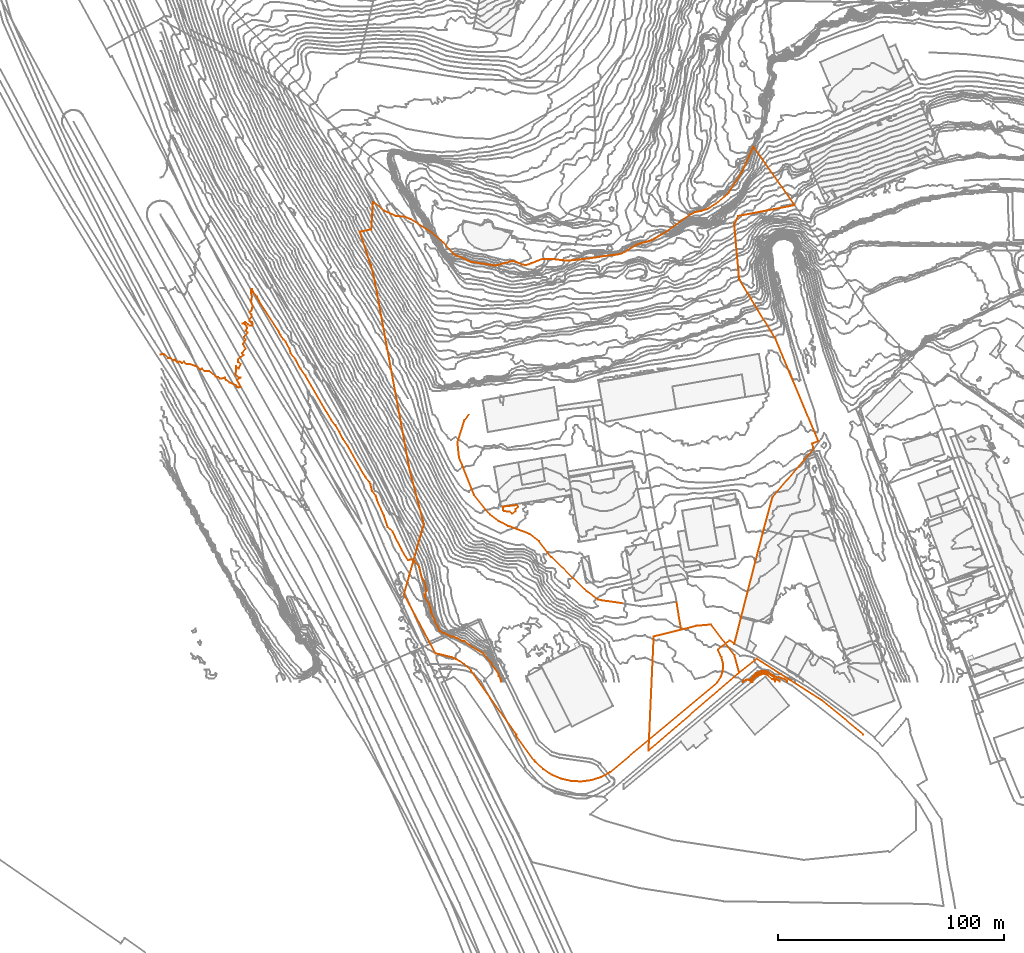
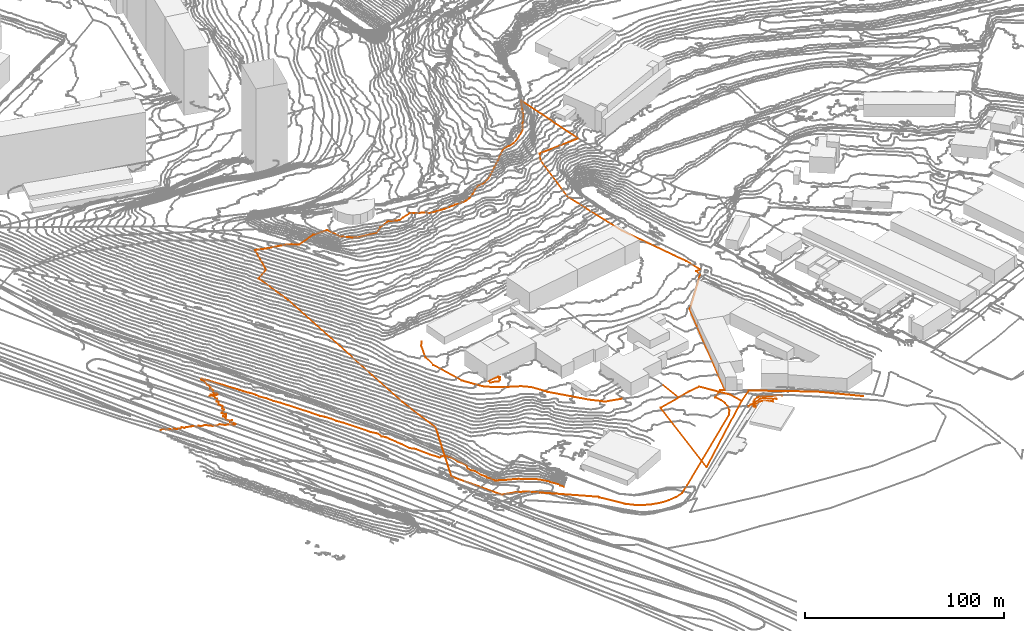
# Not in any storey, part 107 of 419: 12 proxies.
"""IFC2X3 model written with IfcOpenShell, lengths in metres."""

from ifc_helpers import new_model, entity, si_unit, frame, origin_with_axes, place, context, subcontext, project, element, save


model = new_model("IFC2X3")

# Units and contexts
model_context = context("Model", 3, precision=1e-05, world=origin_with_axes())
body_context = subcontext(model_context, "Body", "Model", "MODEL_VIEW")
ifc_project = project(units=[si_unit("AREAUNIT", "SQUARE_METRE"), si_unit("LENGTHUNIT", "METRE")], contexts=[model_context])

# Proxies
proxy_1_placement = place(None, frame((215.4920204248, -31.9023090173, 12.0), z_axis=(0.0, 0.0, 1.0), x_axis=(1.0, 0.0, 0.0)))
element("IfcBuildingElementProxy", 1, at=proxy_1_placement, Name="Route 16", ObjectType="NOTDEFINED", context=body_context, shape_type="GeometricCurveSet", body=[
    entity("IfcGeometricCurveSet", [entity("IfcPolyline", [entity("IfcCartesianPoint", [40.1, 34.3999999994, 5.6]), entity("IfcCartesianPoint", [0.0, 0.0, 0.0])])]),
])
proxy_2_placement = place(None, frame((227.8920204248, 33.8976909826, 18.1), z_axis=(0.0, 0.0, 1.0), x_axis=(1.0, 0.0, 0.0)))
element("IfcBuildingElementProxy", 2, at=proxy_2_placement, Name="Route 100", ObjectType="NOTDEFINED", context=body_context, shape_type="GeometricCurveSet", body=[
    entity("IfcGeometricCurveSet", [entity("IfcPolyline", [entity("IfcCartesianPoint", [0.0, 0.0, 0.0]), entity("IfcCartesianPoint", [2.0, -12.4000000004, -1.0])])]),
])
proxy_3_placement = place(None, frame((215.4920204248, -31.9023090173, 12.0), z_axis=(0.0, 0.0, 1.0), x_axis=(1.0, 0.0, 0.0)))
element("IfcBuildingElementProxy", 3, at=proxy_3_placement, Name="Route 153", ObjectType="NOTDEFINED", context=body_context, shape_type="GeometricCurveSet", body=[
    entity("IfcGeometricCurveSet", [entity("IfcPolyline", [entity("IfcCartesianPoint", [0.0, 0.0, 0.0]), entity("IfcCartesianPoint", [2.2999999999, 50.3999999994, 5.0]), entity("IfcCartesianPoint", [14.4, 53.3999999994, 5.1])])]),
])
proxy_4_placement = place(None, frame((130.9920204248, 104.3976909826, 26.1), z_axis=(0.0, 0.0, 1.0), x_axis=(1.0, 0.0, 0.0)))
element("IfcBuildingElementProxy", 4, at=proxy_4_placement, Name="Route 252", ObjectType="NOTDEFINED", context=body_context, shape_type="GeometricCurveSet", body=[
    entity("IfcGeometricCurveSet", [entity("IfcPolyline", [entity("IfcCartesianPoint", [5.1, 12.5, 0.9]), entity("IfcCartesianPoint", [3.0, 9.5, 0.6]), entity("IfcCartesianPoint", [0.0, 0.0, 0.0]), entity("IfcCartesianPoint", [0.7, -6.7000000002, -0.7]), entity("IfcCartesianPoint", [7.4, -23.2999999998, -2.5]), entity("IfcCartesianPoint", [14.5, -32.0999999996, -3.3]), entity("IfcCartesianPoint", [18.2, -34.9000000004, -3.3]), entity("IfcCartesianPoint", [22.4, -37.0, -3.7]), entity("IfcCartesianPoint", [32.0, -40.5999999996, -4.2]), entity("IfcCartesianPoint", [36.0, -43.7999999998, -4.2]), entity("IfcCartesianPoint", [41.6, -50.9000000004, -4.8]), entity("IfcCartesianPoint", [57.1, -65.9000000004, -6.0]), entity("IfcCartesianPoint", [62.2, -69.5999999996, -6.4]), entity("IfcCartesianPoint", [63.5, -69.9000000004, -7.0]), entity("IfcCartesianPoint", [72.7, -71.2000000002, -7.6])])]),
])
proxy_5_placement = place(None, frame((229.8920204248, 21.4976909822, 17.1), z_axis=(0.0, 0.0, 1.0), x_axis=(1.0, 0.0, 0.0)))
element("IfcBuildingElementProxy", 5, at=proxy_5_placement, Name="Route 253", ObjectType="NOTDEFINED", context=body_context, shape_type="GeometricCurveSet", body=[
    entity("IfcGeometricCurveSet", [entity("IfcPolyline", [entity("IfcCartesianPoint", [0.0, 0.0, 0.0]), entity("IfcCartesianPoint", [6.8999999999, 1.7000000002, 0.3]), entity("IfcCartesianPoint", [13.2999999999, 2.3000000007, 0.7]), entity("IfcCartesianPoint", [23.6, -11.2999999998, 0.4]), entity("IfcCartesianPoint", [25.7, -19.0, 0.5])])]),
])
proxy_6_placement = place(None, frame((255.5920204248, 2.4976909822, 17.6), z_axis=(0.0, 0.0, 1.0), x_axis=(1.0, 0.0, 0.0)))
element("IfcBuildingElementProxy", 6, at=proxy_6_placement, Name="Route 256", ObjectType="NOTDEFINED", context=body_context, shape_type="GeometricCurveSet", body=[
    entity("IfcGeometricCurveSet", [entity("IfcPolyline", [entity("IfcCartesianPoint", [0.0, 0.0, 0.0]), entity("IfcCartesianPoint", [7.7, 6.1000000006, 0.0]), entity("IfcCartesianPoint", [36.4, -12.1999999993, 0.4]), entity("IfcCartesianPoint", [54.9, -27.2999999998, 0.3])])]),
])
proxy_7_placement = place(None, frame((87.7920204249, 197.4976909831, 33.1496004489), z_axis=(0.0, 0.0, 1.0), x_axis=(1.0, 0.0, 0.0)))
element("IfcBuildingElementProxy", 7, at=proxy_7_placement, Name="Cadastre 335", ObjectType="NOTDEFINED", context=body_context, shape_type="GeometricCurveSet", body=[
    entity("IfcGeometricCurveSet", [entity("IfcPolyline", [entity("IfcCartesianPoint", [33.5499999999, -186.4900000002, -31.195350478]), entity("IfcCartesianPoint", [19.5299999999, -160.3000000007, -31.1716604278]), entity("IfcCartesianPoint", [28.36, -129.1900000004, -22.8964121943]), entity("IfcCartesianPoint", [22.24, -106.1900000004, -19.2302004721]), entity("IfcCartesianPoint", [18.0, -83.25, -15.0913002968]), entity("IfcCartesianPoint", [6.1599999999, -19.2800000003, -3.5895365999]), entity("IfcCartesianPoint", [5.62, -17.4200000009, -3.2727525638]), entity("IfcCartesianPoint", [4.9299999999, -14.9700000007, -2.8376243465]), entity("IfcCartesianPoint", [0.0, 0.0, 0.0]), entity("IfcCartesianPoint", [5.0699999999, 1.0499999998, 3.0598048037]), entity("IfcCartesianPoint", [5.83, 13.2199999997, 7.5485268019]), entity("IfcCartesianPoint", [10.8099999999, 9.2799999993, 9.2240953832]), entity("IfcCartesianPoint", [15.86, 7.0499999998, 10.2466809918]), entity("IfcCartesianPoint", [19.7799999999, 6.6199999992, 9.8278168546]), entity("IfcCartesianPoint", [22.5, 5.5899999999, 9.7898387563]), entity("IfcCartesianPoint", [25.6799999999, 3.5899999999, 9.8558316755]), entity("IfcCartesianPoint", [31.6499999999, -0.25, 15.9574254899]), entity("IfcCartesianPoint", [37.1, -4.8700000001, 19.7376892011]), entity("IfcCartesianPoint", [41.59, -9.9400000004, 17.3336984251]), entity("IfcCartesianPoint", [49.2799999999, -13.3100000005, 15.8859805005]), entity("IfcCartesianPoint", [59.61, -14.9200000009, 16.2252165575]), entity("IfcCartesianPoint", [61.0299999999, -14.7800000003, 16.775847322]), entity("IfcCartesianPoint", [62.4299999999, -14.2700000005, 18.1761027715]), entity("IfcCartesianPoint", [67.6699999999, -12.8900000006, 19.4125919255]), entity("IfcCartesianPoint", [71.6499999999, -14.4300000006, 19.3025652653]), entity("IfcCartesianPoint", [73.36, -14.8100000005, 19.2423358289]), entity("IfcCartesianPoint", [75.9399999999, -13.9000000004, 19.3809199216]), entity("IfcCartesianPoint", [80.8199999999, -11.9700000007, 19.1273111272]), entity("IfcCartesianPoint", [85.1799999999, -12.04, 17.7956275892]), entity("IfcCartesianPoint", [89.22, -12.5500000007, 16.8559796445]), entity("IfcCartesianPoint", [92.22, -12.79, 15.7641380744]), entity("IfcCartesianPoint", [101.4099999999, -11.7800000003, 14.5136399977]), entity("IfcCartesianPoint", [107.9299999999, -10.79, 14.0893266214]), entity("IfcCartesianPoint", [112.74, -10.2000000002, 13.5418586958]), entity("IfcCartesianPoint", [114.9099999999, -9.9200000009, 13.5956011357]), entity("IfcCartesianPoint", [117.6, -8.7100000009, 13.6106984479]), entity("IfcCartesianPoint", [120.22, -7.0100000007, 14.1468648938]), entity("IfcCartesianPoint", [122.49, -5.7000000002, 15.2265198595]), entity("IfcCartesianPoint", [125.0, -4.8400000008, 16.4420801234]), entity("IfcCartesianPoint", [128.6499999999, -3.9200000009, 15.9554999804]), entity("IfcCartesianPoint", [130.9299999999, -2.7000000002, 16.1604194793]), entity("IfcCartesianPoint", [134.5499999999, -0.5200000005, 16.9589997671]), entity("IfcCartesianPoint", [146.1499999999, 7.5699999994, 23.1404105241]), entity("IfcCartesianPoint", [147.98, 8.6099999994, 23.2763274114]), entity("IfcCartesianPoint", [151.0399999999, 9.25, 23.1344592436]), entity("IfcCartesianPoint", [153.83, 10.1199999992, 23.0939033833]), entity("IfcCartesianPoint", [157.6, 12.5, 23.1687992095]), entity("IfcCartesianPoint", [163.0399999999, 17.0899999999, 23.4222915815]), entity("IfcCartesianPoint", [168.99, 26.46, 24.8803915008]), entity("IfcCartesianPoint", [174.11, 37.5999999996, 25.4276097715]), entity("IfcCartesianPoint", [192.4199999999, 11.7999999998, 11.5059395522]), entity("IfcCartesianPoint", [167.36, 6.9799999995, 14.0376462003]), entity("IfcCartesianPoint", [165.62, 3.2999999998, 12.7647195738]), entity("IfcCartesianPoint", [167.7999999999, -20.9800000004, 3.795598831]), entity("IfcCartesianPoint", [183.85, -47.2800000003, -6.3424410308]), entity("IfcCartesianPoint", [196.3199999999, -77.1300000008, -7.5425638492]), entity("IfcCartesianPoint", [199.4099999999, -84.4300000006, -7.7187877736]), entity("IfcCartesianPoint", [202.87, -92.5800000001, -9.2579601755]), entity("IfcCartesianPoint", [200.08, -93.6400000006, -8.7294085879]), entity("IfcCartesianPoint", [200.71, -96.1100000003, -9.6134639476]), entity("IfcCartesianPoint", [196.83, -100.4800000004, -10.9808488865]), entity("IfcCartesianPoint", [182.5299999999, -117.4300000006, -11.5107734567]), entity("IfcCartesianPoint", [178.61, -131.79, -11.9214794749]), entity("IfcCartesianPoint", [168.7, -170.1800000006, -15.1339199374]), entity("IfcCartesianPoint", [165.61, -182.2700000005, -15.8918462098]), entity("IfcCartesianPoint", [163.5499999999, -180.75, -15.9452250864]), entity("IfcCartesianPoint", [158.38, -184.79, -16.2168201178]), entity("IfcCartesianPoint", [159.97, -188.2300000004, -16.5089844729]), entity("IfcCartesianPoint", [160.6599999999, -191.1000000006, -16.8653999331]), entity("IfcCartesianPoint", [160.5699999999, -194.0600000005, -17.1485085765]), entity("IfcCartesianPoint", [159.6799999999, -196.9000000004, -17.4884806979]), entity("IfcCartesianPoint", [158.0699999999, -199.3800000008, -17.7007002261]), entity("IfcCartesianPoint", [157.97, -199.5, -17.7077001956]), entity("IfcCartesianPoint", [110.6399999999, -239.1000000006, -20.6172003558]), entity("IfcCartesianPoint", [106.63, -241.2200000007, -22.686200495]), entity("IfcCartesianPoint", [102.33, -242.5700000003, -22.6896004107]), entity("IfcCartesianPoint", [97.86, -243.1600000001, -22.7184001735]), entity("IfcCartesianPoint", [93.35, -242.9400000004, -22.798600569]), entity("IfcCartesianPoint", [88.96, -241.9400000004, -22.8780001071]), entity("IfcCartesianPoint", [84.8099999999, -240.1700000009, -22.9594008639]), entity("IfcCartesianPoint", [81.0399999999, -237.7000000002, -23.0776002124]), entity("IfcCartesianPoint", [77.7599999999, -234.6100000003, -23.1772002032]), entity("IfcCartesianPoint", [77.25, -234.0100000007, -23.1466004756]), entity("IfcCartesianPoint", [69.09, -222.8700000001, -23.2283003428]), entity("IfcCartesianPoint", [69.2999999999, -222.4800000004, -23.234600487]), entity("IfcCartesianPoint", [49.24, -194.0600000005, -30.6254564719]), entity("IfcCartesianPoint", [46.1699999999, -191.25, -30.8959654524]), entity("IfcCartesianPoint", [42.61, -189.0600000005, -31.100148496]), entity("IfcCartesianPoint", [40.6399999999, -188.2000000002, -31.1704004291]), entity("IfcCartesianPoint", [33.5499999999, -186.4900000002, -31.195350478])])]),
])
proxy_8_placement = place(None, frame((151.0920204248, 74.3977159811, 22.0), z_axis=(0.0, 0.0, 1.0), x_axis=(1.0, 0.0, 0.0)))
element("IfcBuildingElementProxy", 8, at=proxy_8_placement, Name="Contour 22.0 m", ObjectType="NOTDEFINED", context=body_context, shape_type="GeometricCurveSet", body=[
    entity("IfcGeometricCurveSet", [entity("IfcPolyline", [entity("IfcCartesianPoint", [4.0, -1.6000269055, 0.0]), entity("IfcCartesianPoint", [5.6666666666, -0.5000249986, 0.0]), entity("IfcCartesianPoint", [5.6666666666, 0.4999750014, 0.0]), entity("IfcCartesianPoint", [6.8, 1.4999750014, 0.0]), entity("IfcCartesianPoint", [6.0, 2.1666416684, 0.0]), entity("IfcCartesianPoint", [0.0, 1.5344584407, 0.0]), entity("IfcCartesianPoint", [0.0, 0.0, 0.0]), entity("IfcCartesianPoint", [0.5000249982, -0.5000249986, 0.0]), entity("IfcCartesianPoint", [3.0, -0.7000288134, 0.0]), entity("IfcCartesianPoint", [4.0, -1.6000269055, 0.0])])]),
])
proxy_9_placement = place(None, frame((-0.4079795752, 143.2310243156, 4.0), z_axis=(0.0, 0.0, 1.0), x_axis=(1.0, 0.0, 0.0)))
element("IfcBuildingElementProxy", 9, at=proxy_9_placement, Name="Contour 4.0 m", ObjectType="NOTDEFINED", context=body_context, shape_type="GeometricCurveSet", body=[
    entity("IfcGeometricCurveSet", [entity("IfcPolyline", [entity("IfcCartesianPoint", [150.6376623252, -144.833333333, 0.0]), entity("IfcCartesianPoint", [150.5163398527, -143.333333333, 0.0]), entity("IfcCartesianPoint", [149.6575342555, -142.333333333, 0.0]), entity("IfcCartesianPoint", [149.5, -141.1272264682, 0.0]), entity("IfcCartesianPoint", [146.7874999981, -137.333333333, 0.0]), entity("IfcCartesianPoint", [146.5, -136.3848799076, 0.0]), entity("IfcCartesianPoint", [142.9366196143, -132.333333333, 0.0]), entity("IfcCartesianPoint", [136.2288137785, -128.333333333, 0.0]), entity("IfcCartesianPoint", [134.5, -126.8799999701, 0.0]), entity("IfcCartesianPoint", [133.5, -126.677777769, 0.0]), entity("IfcCartesianPoint", [129.5, -124.7515151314, 0.0]), entity("IfcCartesianPoint", [128.5, -124.8176100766, 0.0]), entity("IfcCartesianPoint", [125.5, -123.2652704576, 0.0]), entity("IfcCartesianPoint", [124.5, -123.02777775, 0.0]), entity("IfcCartesianPoint", [123.5, -122.2870370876, 0.0]), entity("IfcCartesianPoint", [122.5, -119.8481848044, 0.0]), entity("IfcCartesianPoint", [121.4171598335, -118.333333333, 0.0]), entity("IfcCartesianPoint", [121.3536586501, -117.333333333, 0.0]), entity("IfcCartesianPoint", [119.8611111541, -114.333333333, 0.0]), entity("IfcCartesianPoint", [119.0252526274, -110.333333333, 0.0]), entity("IfcCartesianPoint", [117.4893617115, -108.333333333, 0.0]), entity("IfcCartesianPoint", [116.914965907, -106.333333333, 0.0]), entity("IfcCartesianPoint", [117.637930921, -104.333333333, 0.0]), entity("IfcCartesianPoint", [117.6159419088, -103.333333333, 0.0]), entity("IfcCartesianPoint", [116.6454544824, -100.333333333, 0.0]), entity("IfcCartesianPoint", [115.5789473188, -98.333333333, 0.0]), entity("IfcCartesianPoint", [114.5, -93.9047619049, 0.0]), entity("IfcCartesianPoint", [112.4999833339, -91.333333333, 0.0]), entity("IfcCartesianPoint", [111.5, -90.7878799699, 0.0]), entity("IfcCartesianPoint", [110.5, -90.666666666, 0.0]), entity("IfcCartesianPoint", [109.5, -91.0, 0.0]), entity("IfcCartesianPoint", [106.7, -86.333333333, 0.0]), entity("IfcCartesianPoint", [102.7380952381, -78.333333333, 0.0]), entity("IfcCartesianPoint", [100.5697673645, -76.333333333, 0.0]), entity("IfcCartesianPoint", [98.8541668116, -71.333333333, 0.0]), entity("IfcCartesianPoint", [95.8137256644, -64.333333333, 0.0]), entity("IfcCartesianPoint", [95.2631575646, -62.333333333, 0.0]), entity("IfcCartesianPoint", [93.5799999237, -60.333333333, 0.0]), entity("IfcCartesianPoint", [92.9328357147, -57.333333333, 0.0]), entity("IfcCartesianPoint", [92.5, -56.5277781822, 0.0]), entity("IfcCartesianPoint", [90.7244895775, -54.333333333, 0.0]), entity("IfcCartesianPoint", [82.8035715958, -40.333333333, 0.0]), entity("IfcCartesianPoint", [80.7142855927, -37.333333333, 0.0]), entity("IfcCartesianPoint", [79.2499997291, -34.333333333, 0.0]), entity("IfcCartesianPoint", [77.4230764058, -31.333333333, 0.0]), entity("IfcCartesianPoint", [75.8142857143, -29.333333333, 0.0]), entity("IfcCartesianPoint", [64.1511626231, -9.333333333, 0.0]), entity("IfcCartesianPoint", [61.9814812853, -6.333333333, 0.0]), entity("IfcCartesianPoint", [59.9000003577, -2.333333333, 0.0]), entity("IfcCartesianPoint", [57.6176468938, 0.666666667, 0.0]), entity("IfcCartesianPoint", [57.0681817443, 2.666666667, 0.0]), entity("IfcCartesianPoint", [55.3846146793, 5.666666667, 0.0]), entity("IfcCartesianPoint", [54.5, 6.4880946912, 0.0]), entity("IfcCartesianPoint", [53.0681817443, 8.666666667, 0.0]), entity("IfcCartesianPoint", [52.111111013, 10.666666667, 0.0]), entity("IfcCartesianPoint", [43.635134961, 23.666666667, 0.0]), entity("IfcCartesianPoint", [42.7249998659, 25.666666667, 0.0]), entity("IfcCartesianPoint", [40.9999813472, 27.666666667, 0.0]), entity("IfcCartesianPoint", [40.5, 28.8484844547, 0.0]), entity("IfcCartesianPoint", [40.1666666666, 28.666666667, 0.0]), entity("IfcCartesianPoint", [40.0000186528, 27.666666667, 0.0]), entity("IfcCartesianPoint", [40.5000199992, 25.666666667, 0.0]), entity("IfcCartesianPoint", [40.1666666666, 23.666666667, 0.0]), entity("IfcCartesianPoint", [40.2777783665, 22.666666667, 0.0]), entity("IfcCartesianPoint", [40.8333333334, 21.666666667, 0.0]), entity("IfcCartesianPoint", [40.3571428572, 19.666666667, 0.0]), entity("IfcCartesianPoint", [39.500049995, 18.666666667, 0.0]), entity("IfcCartesianPoint", [40.2500014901, 17.666666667, 0.0]), entity("IfcCartesianPoint", [40.3333339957, 16.666666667, 0.0]), entity("IfcCartesianPoint", [39.5000999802, 15.666666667, 0.0]), entity("IfcCartesianPoint", [39.5000999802, 14.666666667, 0.0]), entity("IfcCartesianPoint", [40.5, 14.333333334, 0.0]), entity("IfcCartesianPoint", [40.7857142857, 13.666666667, 0.0]), entity("IfcCartesianPoint", [40.5, 12.6666466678, 0.0]), entity("IfcCartesianPoint", [39.4999666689, 12.666666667, 0.0]), entity("IfcCartesianPoint", [37.5, 14.3333280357, 0.0]), entity("IfcCartesianPoint", [36.3888888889, 13.666666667, 0.0]), entity("IfcCartesianPoint", [37.5, 13.333333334, 0.0]), entity("IfcCartesianPoint", [38.0714285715, 12.666666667, 0.0]), entity("IfcCartesianPoint", [38.2777783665, 11.666666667, 0.0]), entity("IfcCartesianPoint", [37.7857142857, 10.666666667, 0.0]), entity("IfcCartesianPoint", [38.5000999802, 9.666666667, 0.0]), entity("IfcCartesianPoint", [36.9444444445, 7.666666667, 0.0]), entity("IfcCartesianPoint", [37.75, 6.666666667, 0.0]), entity("IfcCartesianPoint", [36.5000999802, 4.666666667, 0.0]), entity("IfcCartesianPoint", [37.7000038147, 2.666666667, 0.0]), entity("IfcCartesianPoint", [36.1666666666, 0.666666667, 0.0]), entity("IfcCartesianPoint", [36.7500044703, -0.333333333, 0.0]), entity("IfcCartesianPoint", [35.5, -1.0833348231, 0.0]), entity("IfcCartesianPoint", [34.25, -2.333333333, 0.0]), entity("IfcCartesianPoint", [34.3571428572, -3.333333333, 0.0]), entity("IfcCartesianPoint", [35.5000142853, -4.333333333, 0.0]), entity("IfcCartesianPoint", [34.5, -6.3334333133, 0.0]), entity("IfcCartesianPoint", [33.5, -5.0833348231, 0.0]), entity("IfcCartesianPoint", [33.3888888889, -5.333333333, 0.0]), entity("IfcCartesianPoint", [33.5000999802, -7.333333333, 0.0]), entity("IfcCartesianPoint", [33.2692307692, -8.333333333, 0.0]), entity("IfcCartesianPoint", [33.5, -9.3333000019, 0.0]), entity("IfcCartesianPoint", [34.5, -10.1333295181, 0.0]), entity("IfcCartesianPoint", [35.5000083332, -10.333333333, 0.0]), entity("IfcCartesianPoint", [34.5, -10.6666719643, 0.0]), entity("IfcCartesianPoint", [34.0000249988, -11.333333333, 0.0]), entity("IfcCartesianPoint", [35.5, -14.3333433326, 0.0]), entity("IfcCartesianPoint", [34.5, -14.555555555, 0.0]), entity("IfcCartesianPoint", [33.9999750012, -14.333333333, 0.0]), entity("IfcCartesianPoint", [33.5, -13.6666719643, 0.0]), entity("IfcCartesianPoint", [30.4999750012, -12.333333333, 0.0]), entity("IfcCartesianPoint", [28.9999440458, -11.333333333, 0.0]), entity("IfcCartesianPoint", [28.5, -10.3334333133, 0.0]), entity("IfcCartesianPoint", [26.5, -10.7619067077, 0.0]), entity("IfcCartesianPoint", [25.5, -10.0833348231, 0.0]), entity("IfcCartesianPoint", [24.5, -9.8333583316, 0.0]), entity("IfcCartesianPoint", [21.5, -7.3333583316, 0.0]), entity("IfcCartesianPoint", [19.5, -7.3333666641, 0.0]), entity("IfcCartesianPoint", [18.5, -6.3333583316, 0.0]), entity("IfcCartesianPoint", [17.5, -6.583333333, 0.0]), entity("IfcCartesianPoint", [16.1666613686, -5.333333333, 0.0]), entity("IfcCartesianPoint", [15.5, -5.083333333, 0.0]), entity("IfcCartesianPoint", [12.5, -4.1666673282, 0.0]), entity("IfcCartesianPoint", [11.5, -4.3334333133, 0.0]), entity("IfcCartesianPoint", [10.5, -3.1333333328, 0.0]), entity("IfcCartesianPoint", [9.5, -3.7333333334, 0.0]), entity("IfcCartesianPoint", [8.5, -3.1666673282, 0.0]), entity("IfcCartesianPoint", [7.5, -3.5333371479, 0.0]), entity("IfcCartesianPoint", [6.5, -2.3333583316, 0.0]), entity("IfcCartesianPoint", [5.5, -2.6190476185, 0.0]), entity("IfcCartesianPoint", [4.5, -1.6666719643, 0.0]), entity("IfcCartesianPoint", [3.5, -1.6666719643, 0.0]), entity("IfcCartesianPoint", [1.5, 0.2380932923, 0.0]), entity("IfcCartesianPoint", [0.0, 0.0, 0.0])])]),
])
proxy_10_placement = place(None, frame((261.4604414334, -1.6023090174, 14.0), z_axis=(0.0, 0.0, 1.0), x_axis=(1.0, 0.0, 0.0)))
element("IfcBuildingElementProxy", 10, at=proxy_10_placement, Name="Contour 14.0 m", ObjectType="NOTDEFINED", context=body_context, shape_type="GeometricCurveSet", body=[
    entity("IfcGeometricCurveSet", [entity("IfcPolyline", [entity("IfcCartesianPoint", [10.0724388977, 0.0, 0.0]), entity("IfcCartesianPoint", [10.0724388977, 0.5, 0.0]), entity("IfcCartesianPoint", [9.6315789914, 0.9555555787, 0.0]), entity("IfcCartesianPoint", [8.6315789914, 1.2171719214, 0.0]), entity("IfcCartesianPoint", [6.6315789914, 3.233333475, 0.0]), entity("IfcCartesianPoint", [4.6315789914, 3.5827585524, 0.0]), entity("IfcCartesianPoint", [1.9377014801, 2.5, 0.0]), entity("IfcCartesianPoint", [0.6315789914, 1.3674702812, 0.0]), entity("IfcCartesianPoint", [0.0, 0.5, 0.0]), entity("IfcCartesianPoint", [0.0, 0.0, 0.0])])]),
])
proxy_11_placement = place(None, frame((260.6526264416, -1.6023090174, 15.0), z_axis=(0.0, 0.0, 1.0), x_axis=(1.0, 0.0, 0.0)))
element("IfcBuildingElementProxy", 11, at=proxy_11_placement, Name="Contour 15.0 m", ObjectType="NOTDEFINED", context=body_context, shape_type="GeometricCurveSet", body=[
    entity("IfcGeometricCurveSet", [entity("IfcPolyline", [entity("IfcCartesianPoint", [12.833333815, 0.0, 0.0]), entity("IfcCartesianPoint", [12.833333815, 0.5, 0.0]), entity("IfcCartesianPoint", [11.4393939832, 0.9403668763, 0.0]), entity("IfcCartesianPoint", [10.4393939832, 1.9434782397, 0.0]), entity("IfcCartesianPoint", [7.4393939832, 3.9662577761, 0.0]), entity("IfcCartesianPoint", [5.4393939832, 4.2724138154, 0.0]), entity("IfcCartesianPoint", [2.4393939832, 3.0109488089, 0.0]), entity("IfcCartesianPoint", [0.0, 0.5, 0.0]), entity("IfcCartesianPoint", [0.0, 0.0, 0.0])])]),
])
proxy_12_placement = place(None, frame((257.377738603, -1.6023090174, 16.0), z_axis=(0.0, 0.0, 1.0), x_axis=(1.0, 0.0, 0.0)))
element("IfcBuildingElementProxy", 12, at=proxy_12_placement, Name="Contour 16.0 m", ObjectType="NOTDEFINED", context=body_context, shape_type="GeometricCurveSet", body=[
    entity("IfcGeometricCurveSet", [entity("IfcPolyline", [entity("IfcCartesianPoint", [19.5142813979, 0.0, 0.0]), entity("IfcCartesianPoint", [19.5142813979, 0.5, 0.0]), entity("IfcCartesianPoint", [16.7142818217, 1.7500004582, 0.0]), entity("IfcCartesianPoint", [15.7142818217, 2.1097563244, 0.0]), entity("IfcCartesianPoint", [14.7142818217, 1.9482763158, 0.0]), entity("IfcCartesianPoint", [10.7142818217, 4.5921986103, 0.0]), entity("IfcCartesianPoint", [8.7142818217, 4.8806818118, 0.0]), entity("IfcCartesianPoint", [7.7142818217, 4.8725493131, 0.0]), entity("IfcCartesianPoint", [5.7142818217, 3.792035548, 0.0]), entity("IfcCartesianPoint", [4.2956774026, 2.5, 0.0]), entity("IfcCartesianPoint", [3.7142818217, 1.4349109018, 0.0]), entity("IfcCartesianPoint", [2.7142818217, 0.8611117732, 0.0]), entity("IfcCartesianPoint", [1.7142818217, 0.9333334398, 0.0]), entity("IfcCartesianPoint", [0.0, 0.5, 0.0]), entity("IfcCartesianPoint", [0.0, 0.0, 0.0])])]),
])

save(model, "model.ifc")
